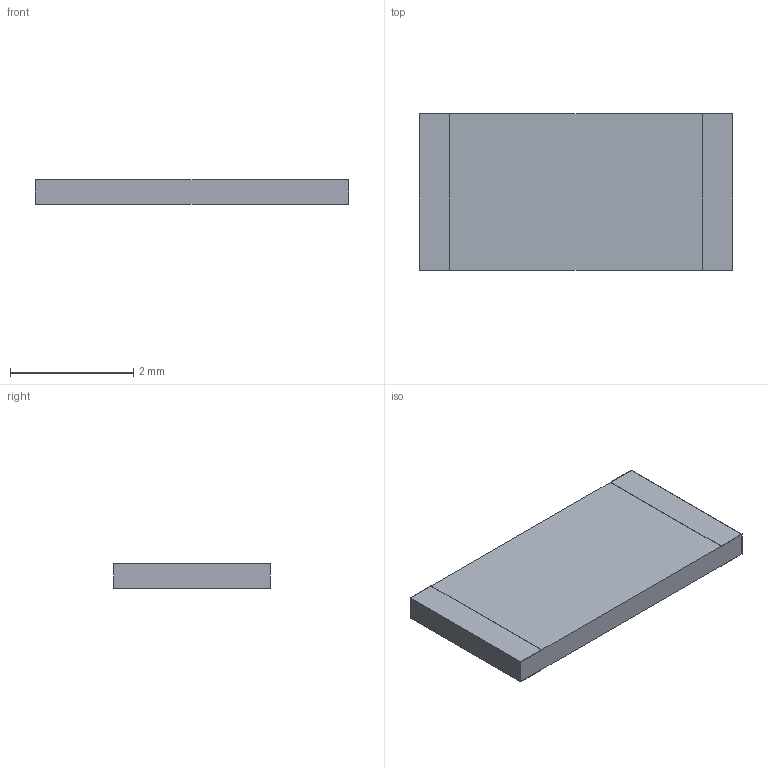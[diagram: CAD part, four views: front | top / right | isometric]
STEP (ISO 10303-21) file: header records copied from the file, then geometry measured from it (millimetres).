
FILE_DESCRIPTION(/* description */ (''),/* implementation_level */ '2;1');
FILE_NAME(/* name */ 'S:\DOCUMENT\AUTOCAD\3D_Modèles\10_3D-pour-VISHAY-COM\P\PVHT2010-G.stp',/* time_stamp */ '2018-01-31T10:16:09+01:00',/* author */ ('dparmentier'),/* organization */ ('unknown'),/* preprocessor_version */ 'ST-DEVELOPER v17',/* originating_system */ 'Autodesk Inventor 2018',/* authorisation */ '');
FILE_SCHEMA (('AUTOMOTIVE_DESIGN { 1 0 10303 214 3 1 1 }'));
Length unit declared in the file: millimetre
Products named in the file (1): PVHT2010-G
Bounding box: 5.08 x 2.54 x 0.4 mm (x, y, z)
Volume: 5.1 mm3; surface area: 45.5 mm2
Topology: 3 solids, 3 shells, 26 faces, 60 edges, 40 vertices
Faces by surface type: plane 26
Entity records: 775 total; most frequent: CARTESIAN_POINT 127, ORIENTED_EDGE 120, DIRECTION 114, LINE 60, VECTOR 60, EDGE_CURVE 60, VERTEX_POINT 40, AXIS2_PLACEMENT_3D 27
